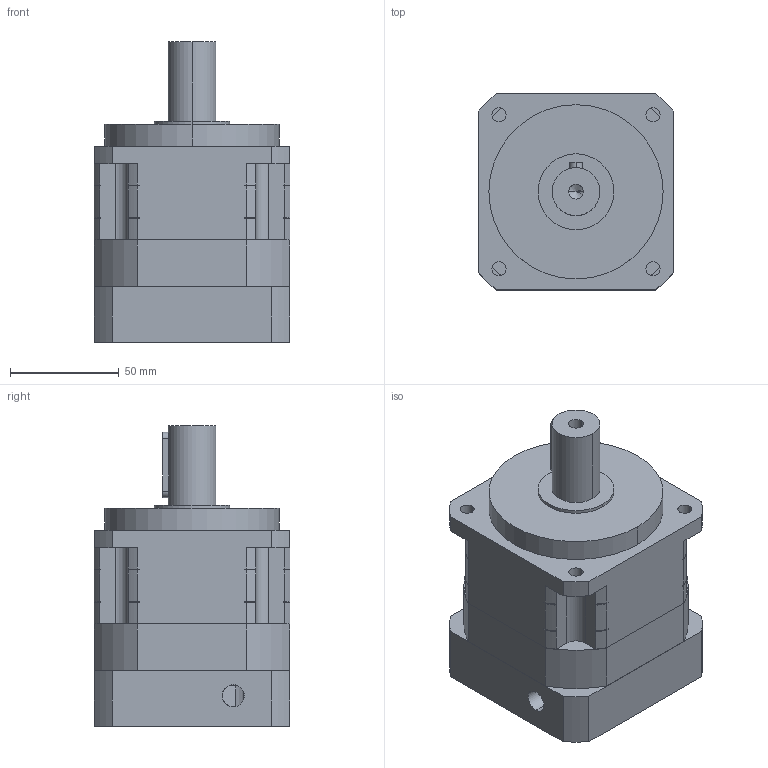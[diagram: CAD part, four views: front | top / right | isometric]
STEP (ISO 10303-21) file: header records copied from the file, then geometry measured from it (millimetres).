
FILE_DESCRIPTION (( 'STEP AP203' ), '1' );
FILE_NAME ('SG090L1.STEP', '2017-06-05T08:02:24', ( 'user1' ), ( '' ), 'SwSTEP 2.0', 'SolidWorks 2012', '' );
FILE_SCHEMA (( 'CONFIG_CONTROL_DESIGN' ));
Length unit declared in the file: millimetre
Products named in the file (5): SG090L1; 複製 of 零件1^PG90L1; 零件3^PG90L1; 零件2^PG90L1; 零件1^PG90L1
Assembly tree (4 placements, depth 2):
  SG090L1
    零件1^PG90L1
    零件2^PG90L1
    零件3^PG90L1
    複製 of 零件1^PG90L1
Bounding box: 90 x 90 x 138 mm (x, y, z)
Volume: 668535.6 mm3; surface area: 104443.2 mm2
Topology: 5 solids, 5 shells, 244 faces, 643 edges, 420 vertices
Faces by surface type: cylinder 140, plane 94, cone 10
Entity records: 8335 total; most frequent: CARTESIAN_POINT 1520, DIRECTION 1400, ORIENTED_EDGE 1266, EDGE_CURVE 633, AXIS2_PLACEMENT_3D 524, VERTEX_POINT 420, VECTOR 352, LINE 352
